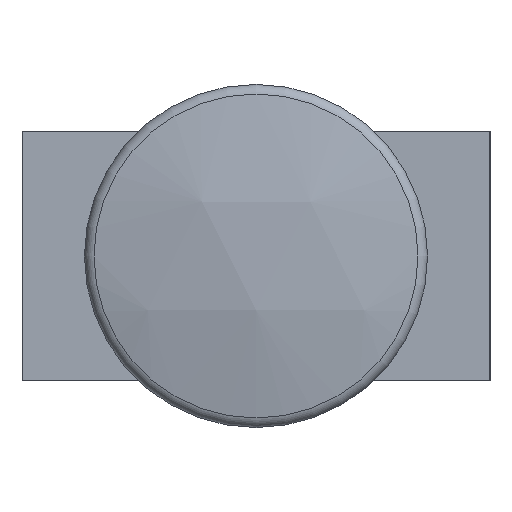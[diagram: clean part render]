
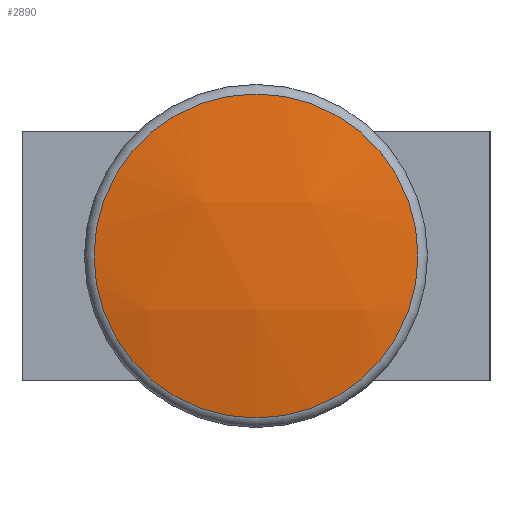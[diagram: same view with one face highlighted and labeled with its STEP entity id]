
A CAD part, left-side view. The second image highlights one B-rep face of the part: STEP entity #2890.
In plain terms, the highlighted spherical face has radius 45 mm.
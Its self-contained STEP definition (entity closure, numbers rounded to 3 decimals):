
#38=SPHERICAL_SURFACE('',#3087,45.);
#528=ORIENTED_EDGE('',*,*,#968,.T.);
#968=EDGE_CURVE('',#1205,#1205,#1382,.T.);
#1205=VERTEX_POINT('',#3988);
#1382=CIRCLE('',#3086,10.385);
#1502=EDGE_LOOP('',(#528));
#1724=FACE_BOUND('',#1502,.T.);
#2890=ADVANCED_FACE('',(#1724),#38,.T.);
#3086=AXIS2_PLACEMENT_3D('',#3987,#3394,#3395);
#3087=AXIS2_PLACEMENT_3D('',#3989,#3396,#3397);
#3394=DIRECTION('',(-1.,0.,0.));
#3395=DIRECTION('',(0.,0.,1.));
#3396=DIRECTION('',(0.,0.,1.));
#3397=DIRECTION('',(1.,0.,0.));
#3987=CARTESIAN_POINT('',(-71.085,0.,0.));
#3988=CARTESIAN_POINT('',(-71.085,0.,10.385));
#3989=CARTESIAN_POINT('',(-27.3,0.,0.));
